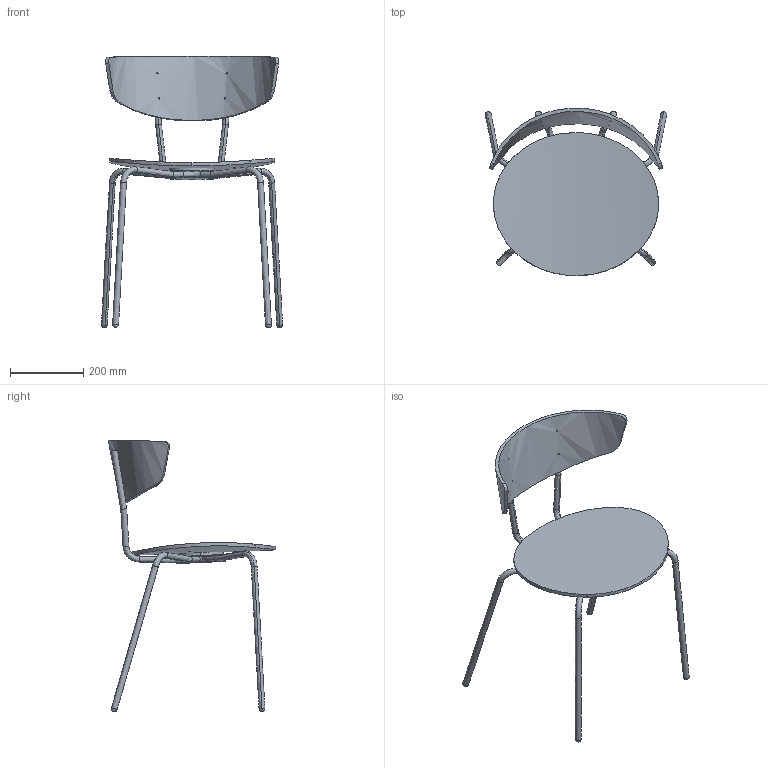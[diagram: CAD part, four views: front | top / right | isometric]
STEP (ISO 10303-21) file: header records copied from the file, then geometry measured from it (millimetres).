
FILE_DESCRIPTION(/* description */ (''),/* implementation_level */ '2;1');
FILE_NAME(/* name */ 'H54R4E~5',/* time_stamp */ '2017-11-22T09:23:29+01:00',/* author */ (''),/* organization */ (''),/* preprocessor_version */ 'ST-DEVELOPER v15',/* originating_system */ '',/* authorisation */ '');
FILE_SCHEMA (('AUTOMOTIVE_DESIGN'));
Length unit declared in the file: millimetre
Products named in the file (1): Document
Bounding box: 493.8 x 456.25 x 738.62 mm (x, y, z)
Volume: 2888962.2 mm3; surface area: 744841.8 mm2
Topology: 12 solids, 12 shells, 196 faces, 428 edges, 270 vertices
Faces by surface type: bspline 196
Entity records: 27076 total; most frequent: CARTESIAN_POINT 21697, B_SPLINE_CURVE_WITH_KNOTS 916, ORIENTED_EDGE 856, PCURVE 856, DEFINITIONAL_REPRESENTATION 856, SURFACE_CURVE 428, EDGE_CURVE 428, VERTEX_POINT 270
